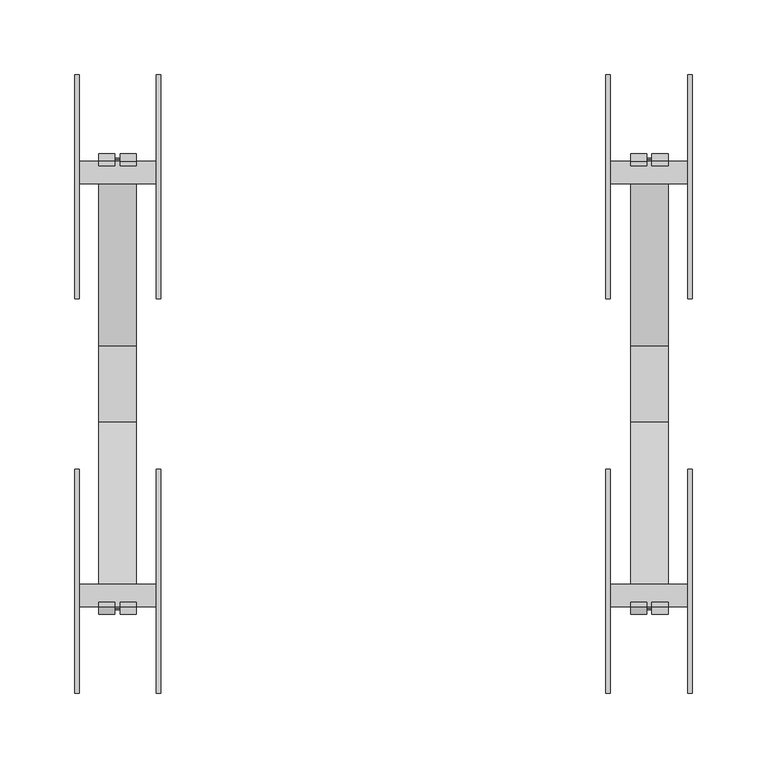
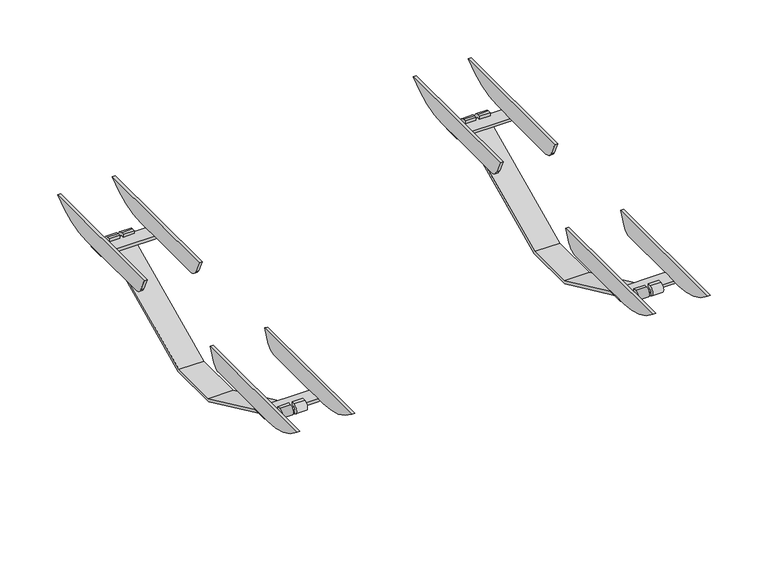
"""IFC4 building model written with IfcOpenShell, lengths in millimetres: light fixture geometry, Zumtobel CRAFT II Plus : CR2PL M17k-840 PC WB LDO WH."""

from ifc_helpers import new_model, si_unit, frame, origin, place, context, project, spatial, polyline, circle_curve, source, transform, mapped, element, save
from ifc_brep_helpers import plane_surface, cylinder_surface, revolved_surface, advanced_brep


def light_fixture_6372cc0d(model_context):
    return source(origin(), model_context, "Body", "AdvancedBrep", [
        advanced_brep(
        [(565.0000048, -25.5853709, -105.279648), (565.0000048, 25.5853709, -105.279648), (565.0000048, 149.9566294, -47.2843777), (565.0000048, 149.1245604, -43.5311571), (565.0000048, 146.1174999, -43.5311571), (565.0000048, 146.1174999, -40.5079957), (565.0000048, 149.1198158, -40.5079957), (565.0000048, 151.2244841, -50.003301), (565.0000048, 26.2504549, -108.279648), (565.0000048, -26.2504549, -108.279648), (565.0000048, -151.2244841, -50.003301), (565.0000048, -149.1245604, -40.5311571), (565.0000048, -146.1174999, -40.5079957), (565.0000048, -146.1174999, -43.5311571), (565.0000048, -149.1245604, -43.5311571), (565.0000048, -149.9566294, -47.2843777), (575.7941225, -149.9566294, -47.2843777), (575.7941225, -149.1245604, -43.5311571), (575.7941225, -146.1174999, -43.5311571), (575.7941225, -146.1174999, -40.5079957), (575.7941225, -149.1198158, -40.5079957), (575.7941225, -151.2244841, -50.003301), (575.7941225, 151.2244841, -50.003301), (575.7941225, 149.1245604, -40.5311571), (575.7941225, 146.1174999, -40.5079957), (575.7941225, 146.1174999, -43.5311571), (575.7941225, 149.1245604, -43.5311571), (575.7941225, 149.9566294, -47.2843777), (579.2058872, -149.9566294, -47.2843777), (590.0000048, -149.9566294, -47.2843777), (590.0000048, -25.5853709, -105.279648), (590.0000048, -26.2504549, -108.279648), (590.0000048, -151.2244841, -50.003301), (579.2058872, -151.2244841, -50.003301), (590.0000048, 26.2504549, -108.279648), (579.2058872, 151.2244841, -50.003301), (590.0000048, 151.2244841, -50.003301), (590.0000048, 25.5853709, -105.279648), (590.0000048, 149.9566294, -47.2843777), (579.2058872, 149.9566294, -47.2843777), (590.0000048, -149.1245604, -43.5311571), (590.0000048, -146.1174999, -43.5311571), (590.0000048, -146.1174999, -40.5079957), (590.0000048, -149.1198158, -40.5079957), (590.0000048, 149.1245604, -40.5311571), (590.0000048, 146.1174999, -40.5079957), (590.0000048, 146.1174999, -43.5311571), (590.0000048, 149.1245604, -43.5311571), (579.2058872, 149.1245604, -43.5311571), (579.2058872, 146.1174999, -43.5311571), (579.2058872, 146.1174999, -40.5079957), (579.2058872, 149.1198158, -40.5079957), (579.2058872, -149.1245604, -40.5311571), (579.2058872, -146.1174999, -40.5079957), (579.2058872, -146.1174999, -43.5311571), (579.2058872, -149.1245604, -43.5311571)],
        [
            (0, 1),
            (1, 2),
            (2, 3, circle_curve(frame((565.0000048, 149.1245604, -45.5), z_axis=(1.0, 0.0, 0.0), x_axis=(0.0, -1.0, 0.0)), 1.9688429)),
            (3, 4),
            (4, 5),
            (5, 6),
            (6, 7, circle_curve(frame((565.0000048, 149.1245604, -45.5), z_axis=(-1.0, 0.0, 0.0), x_axis=(0.0, -1.0, 0.0)), 4.9688429)),
            (7, 8),
            (8, 9),
            (9, 10),
            (10, 11, circle_curve(frame((565.0000048, -149.1245604, -45.5), z_axis=(-1.0, 0.0, 0.0), x_axis=(0.0, 1.0, 0.0)), 4.9688429)),
            (11, 12),
            (12, 13),
            (13, 14),
            (14, 15, circle_curve(frame((565.0000048, -149.1245604, -45.5), z_axis=(1.0, 0.0, 0.0), x_axis=(0.0, 1.0, 0.0)), 1.9688429)),
            (15, 0),
            (16, 17, circle_curve(frame((575.7941225, -149.1245604, -45.5), z_axis=(-1.0, 0.0, 0.0), x_axis=(0.0, 1.0, 0.0)), 1.9688429)),
            (17, 18),
            (18, 19),
            (19, 20),
            (20, 21, circle_curve(frame((575.7941225, -149.1245604, -45.5), z_axis=(1.0, 0.0, 0.0), x_axis=(0.0, 1.0, 0.0)), 4.9688429)),
            (21, 16),
            (22, 23, circle_curve(frame((575.7941225, 149.1245604, -45.5), z_axis=(1.0, 0.0, 0.0), x_axis=(0.0, -1.0, 0.0)), 4.9688429)),
            (23, 24),
            (24, 25),
            (25, 26),
            (26, 27, circle_curve(frame((575.7941225, 149.1245604, -45.5), z_axis=(-1.0, 0.0, 0.0), x_axis=(0.0, -1.0, 0.0)), 1.9688429)),
            (27, 22),
            (15, 16),
            (16, 28),
            (28, 29),
            (29, 30),
            (30, 0),
            (9, 31),
            (31, 32),
            (32, 33),
            (33, 21),
            (21, 10),
            (8, 34),
            (34, 31),
            (7, 22),
            (22, 35),
            (35, 36),
            (36, 34),
            (1, 37),
            (37, 38),
            (38, 39),
            (39, 27),
            (27, 2),
            (30, 37),
            (14, 17),
            (13, 18),
            (12, 19),
            (11, 20),
            (6, 23),
            (5, 24),
            (4, 25),
            (3, 26),
            (39, 35),
            (33, 28),
            (29, 40, circle_curve(frame((590.0000048, -149.1245604, -45.5), z_axis=(-1.0, 0.0, 0.0), x_axis=(0.0, 1.0, 0.0)), 1.9688429)),
            (40, 41),
            (41, 42),
            (42, 43),
            (43, 32, circle_curve(frame((590.0000048, -149.1245604, -45.5), z_axis=(1.0, 0.0, 0.0), x_axis=(0.0, 1.0, 0.0)), 4.9688429)),
            (36, 44, circle_curve(frame((590.0000048, 149.1245604, -45.5), z_axis=(1.0, 0.0, 0.0), x_axis=(0.0, -1.0, 0.0)), 4.9688429)),
            (44, 45),
            (45, 46),
            (46, 47),
            (47, 38, circle_curve(frame((590.0000048, 149.1245604, -45.5), z_axis=(-1.0, 0.0, 0.0), x_axis=(0.0, -1.0, 0.0)), 1.9688429)),
            (39, 48, circle_curve(frame((579.2058872, 149.1245604, -45.5), z_axis=(1.0, 0.0, 0.0), x_axis=(0.0, -1.0, 0.0)), 1.9688429)),
            (48, 49),
            (49, 50),
            (50, 51),
            (51, 35, circle_curve(frame((579.2058872, 149.1245604, -45.5), z_axis=(-1.0, 0.0, 0.0), x_axis=(0.0, -1.0, 0.0)), 4.9688429)),
            (33, 52, circle_curve(frame((579.2058872, -149.1245604, -45.5), z_axis=(-1.0, 0.0, 0.0), x_axis=(0.0, 1.0, 0.0)), 4.9688429)),
            (52, 53),
            (53, 54),
            (54, 55),
            (55, 28, circle_curve(frame((579.2058872, -149.1245604, -45.5), z_axis=(1.0, 0.0, 0.0), x_axis=(0.0, 1.0, 0.0)), 1.9688429)),
            (55, 40),
            (54, 41),
            (53, 42),
            (52, 43),
            (47, 48),
            (46, 49),
            (45, 50),
            (44, 51),
        ],
        [
            plane_surface(frame((565.0000048, -25.5853709, -105.279648), z_axis=(-1.0, 0.0, 0.0), x_axis=(0.0, 1.0, 0.0))),
            plane_surface(frame((575.7941225, -25.5853709, -105.279648), z_axis=(1.0, 0.0, 0.0), x_axis=(0.0, -1.0, 0.0))),
            plane_surface(frame((565.0000048, -149.9566294, -47.2843777), z_axis=(0.0, 0.4226182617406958, 0.9063077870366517), x_axis=(1.0, 0.0, 0.0))),
            plane_surface(frame((565.0000048, -26.2504549, -108.279648), z_axis=(0.0, -0.4226182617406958, -0.9063077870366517), x_axis=(1.0, 0.0, 0.0))),
            plane_surface(frame((565.0000048, 26.2504549, -108.279648), z_axis=(0.0, 0.0, -1.0), x_axis=(1.0, 0.0, 0.0))),
            plane_surface(frame((565.0000048, 151.2244841, -50.003301), z_axis=(0.0, 0.42261826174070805, -0.9063077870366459), x_axis=(1.0, 0.0, 0.0))),
            plane_surface(frame((565.0000048, 25.5853709, -105.279648), z_axis=(0.0, -0.42261826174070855, 0.9063077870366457), x_axis=(1.0, 0.0, 0.0))),
            plane_surface(frame((565.0000048, -25.5853709, -105.279648), z_axis=(0.0, 0.0, 1.0), x_axis=(1.0, 0.0, 0.0))),
            revolved_surface(polyline([(575.7941225, -147.1557175, -45.5), (565.0000048, -147.1557175, -45.5)]), (575.7941225, -149.1245604, -45.5), (1.0, 0.0, 0.0)),
            plane_surface(frame((565.0000048, -146.1174999, -43.5311571), z_axis=(0.0, 0.0, -1.0), x_axis=(1.0, 0.0, 0.0))),
            plane_surface(frame((565.0000048, -146.1174999, -40.5079957), z_axis=(0.0, 1.0, 0.0), x_axis=(1.0, 0.0, 0.0))),
            plane_surface(frame((565.0000048, -149.1198158, -40.5079957), z_axis=(0.0, 0.0, 1.0), x_axis=(1.0, 0.0, 0.0))),
            cylinder_surface(frame((575.7941225, -149.1245604, -45.5), z_axis=(-1.0, 0.0, 0.0), x_axis=(0.0, 1.0, 0.0)), 4.9688429),
            cylinder_surface(frame((575.7941225, 149.1245604, -45.5), z_axis=(-1.0, 0.0, 0.0), x_axis=(0.0, -1.0, 0.0)), 4.9688429),
            plane_surface(frame((565.0000048, 146.1174999, -40.5079957), z_axis=(0.0, 0.0, 1.0), x_axis=(1.0, 0.0, 0.0))),
            plane_surface(frame((565.0000048, 146.1174999, -43.5311571), z_axis=(0.0, -1.0, 0.0), x_axis=(1.0, 0.0, 0.0))),
            plane_surface(frame((565.0000048, 149.1245604, -43.5311571), z_axis=(0.0, 0.0, -1.0), x_axis=(1.0, 0.0, 0.0))),
            revolved_surface(polyline([(575.7941225, 147.1557175, -45.5), (565.0000048, 147.1557175, -45.5)]), (575.7941225, 149.1245604, -45.5), (1.0, 0.0, 0.0)),
            plane_surface(frame((575.7941225, 149.9566294, -47.2843777), z_axis=(0.0, 0.9063077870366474, 0.42261826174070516), x_axis=(1.0, 0.0, 0.0))),
            plane_surface(frame((575.7941225, -151.2244841, -50.003301), z_axis=(0.0, -0.9063077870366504, 0.4226182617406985), x_axis=(1.0, 0.0, 0.0))),
            plane_surface(frame((590.0000048, -157.0, -44.0), z_axis=(1.0, 0.0, 0.0), x_axis=(0.0, -0.9063077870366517, 0.4226182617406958))),
            plane_surface(frame((579.2058872, -157.0, -44.0), z_axis=(-1.0, 0.0, 0.0), x_axis=(0.0, 0.9063077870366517, -0.4226182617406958))),
            revolved_surface(polyline([(579.2058872, -147.1557175, -45.5), (590.0000048, -147.1557175, -45.5)]), (579.2058872, -149.1245604, -45.5), (-1.0, 0.0, 0.0)),
            plane_surface(frame((590.0000048, -149.1245604, -43.5311571), z_axis=(0.0, 0.0, -1.0), x_axis=(-1.0, 0.0, 0.0))),
            plane_surface(frame((590.0000048, -146.1174999, -43.5311571), z_axis=(0.0, 1.0, 0.0), x_axis=(-1.0, 0.0, 0.0))),
            plane_surface(frame((590.0000048, -146.1174999, -40.5079957), z_axis=(0.0, 0.0, 1.0), x_axis=(-1.0, 0.0, 0.0))),
            cylinder_surface(frame((579.2058872, -149.1245604, -45.5), z_axis=(1.0, 0.0, 0.0), x_axis=(0.0, 1.0, 0.0)), 4.9688429),
            revolved_surface(polyline([(579.2058872, 147.1557175, -45.5), (590.0000048, 147.1557175, -45.5)]), (579.2058872, 149.1245604, -45.5), (-1.0, 0.0, 0.0)),
            plane_surface(frame((590.0000048, 146.1174999, -43.5311571), z_axis=(0.0, 0.0, -1.0), x_axis=(-1.0, 0.0, 0.0))),
            plane_surface(frame((590.0000048, 146.1174999, -40.5079957), z_axis=(0.0, -1.0, 0.0), x_axis=(-1.0, 0.0, 0.0))),
            plane_surface(frame((590.0000048, 149.1198158, -40.5079957), z_axis=(0.0, 0.0, 1.0), x_axis=(-1.0, 0.0, 0.0))),
            cylinder_surface(frame((579.2058872, 149.1245604, -45.5), z_axis=(1.0, 0.0, 0.0), x_axis=(0.0, -1.0, 0.0)), 4.9688429),
        ],
        [
            (0, [[1, 2, 3, 4, 5, 6, 7, 8, 9, 10, 11, 12, 13, 14, 15, 16]]),
            (1, [[17, 18, 19, 20, 21, 22]]),
            (1, [[23, 24, 25, 26, 27, 28]]),
            (2, [[-16, 29, 30, 31, 32, 33]]),
            (3, [[-10, 34, 35, 36, 37, 38]]),
            (4, [[-34, -9, 39, 40]]),
            (5, [[-39, -8, 41, 42, 43, 44]]),
            (6, [[-2, 45, 46, 47, 48, 49]]),
            (7, [[-45, -1, -33, 50]]),
            (8, [[-15, 51, -17, -29]]),
            (9, [[-14, 52, -18, -51]]),
            (10, [[-13, 53, -19, -52]]),
            (11, [[-12, 54, -20, -53]]),
            (12, [[-11, -38, -21, -54]]),
            (13, [[-7, 55, -23, -41]]),
            (14, [[-6, 56, -24, -55]]),
            (15, [[-5, 57, -25, -56]]),
            (16, [[-4, 58, -26, -57]]),
            (17, [[-3, -49, -27, -58]]),
            (18, [[-42, -28, -48, 59]]),
            (19, [[-30, -22, -37, 60]]),
            (20, [[-32, 61, 62, 63, 64, 65, -35, -40, -44, 66, 67, 68, 69, 70, -46, -50]]),
            (21, [[71, 72, 73, 74, 75, -59]]),
            (21, [[76, 77, 78, 79, 80, -60]]),
            (22, [[-61, -31, -80, 81]]),
            (23, [[-62, -81, -79, 82]]),
            (24, [[-63, -82, -78, 83]]),
            (25, [[-64, -83, -77, 84]]),
            (26, [[-65, -84, -76, -36]]),
            (27, [[-70, 85, -71, -47]]),
            (28, [[-69, 86, -72, -85]]),
            (29, [[-68, 87, -73, -86]]),
            (30, [[-67, 88, -74, -87]]),
            (31, [[-66, -43, -75, -88]]),
        ],
    ),
        advanced_brep(
        [(234.0000048, -25.5853709, -105.279648), (234.0000048, -149.9566294, -47.2843777), (234.0000048, -149.1245604, -43.5311571), (234.0000048, -146.1174999, -43.5311571), (234.0000048, -146.1174999, -40.5079957), (234.0000048, -149.1198158, -40.5079957), (234.0000048, -151.2244841, -50.003301), (234.0000048, -26.2504549, -108.279648), (234.0000048, 26.2504549, -108.279648), (234.0000048, 151.2244841, -50.003301), (234.0000048, 149.1245604, -40.5311571), (234.0000048, 146.1174999, -40.5079957), (234.0000048, 146.1174999, -43.5311571), (234.0000048, 149.1245604, -43.5311571), (234.0000048, 149.9566294, -47.2843777), (234.0000048, 25.5853709, -105.279648), (223.2058872, -151.2244841, -50.003301), (223.2058872, -149.1245604, -40.5311571), (223.2058872, -146.1174999, -40.5079957), (223.2058872, -146.1174999, -43.5311571), (223.2058872, -149.1245604, -43.5311571), (223.2058872, -149.9566294, -47.2843777), (223.2058872, 149.9566294, -47.2843777), (223.2058872, 149.1245604, -43.5311571), (223.2058872, 146.1174999, -43.5311571), (223.2058872, 146.1174999, -40.5079957), (223.2058872, 149.1198158, -40.5079957), (223.2058872, 151.2244841, -50.003301), (209.0000048, -25.5853709, -105.279648), (209.0000048, -149.9566294, -47.2843777), (219.7941225, -149.9566294, -47.2843777), (219.7941225, -151.2244841, -50.003301), (209.0000048, -151.2244841, -50.003301), (209.0000048, -26.2504549, -108.279648), (209.0000048, 26.2504549, -108.279648), (209.0000048, 151.2244841, -50.003301), (219.7941225, 151.2244841, -50.003301), (219.7941225, 149.9566294, -47.2843777), (209.0000048, 149.9566294, -47.2843777), (209.0000048, 25.5853709, -105.279648), (209.0000048, 149.1245604, -43.5311571), (209.0000048, 146.1174999, -43.5311571), (209.0000048, 146.1174999, -40.5079957), (209.0000048, 149.1198158, -40.5079957), (209.0000048, -149.1245604, -40.5311571), (209.0000048, -146.1174999, -40.5079957), (209.0000048, -146.1174999, -43.5311571), (209.0000048, -149.1245604, -43.5311571), (219.7941225, -149.1245604, -43.5311571), (219.7941225, -146.1174999, -43.5311571), (219.7941225, -146.1174999, -40.5079957), (219.7941225, -149.1198158, -40.5079957), (219.7941225, 149.1245604, -40.5311571), (219.7941225, 146.1174999, -40.5079957), (219.7941225, 146.1174999, -43.5311571), (219.7941225, 149.1245604, -43.5311571)],
        [
            (0, 1),
            (1, 2, circle_curve(frame((234.0000048, -149.1245604, -45.5), z_axis=(-1.0, 0.0, 0.0), x_axis=(0.0, 1.0, 0.0)), 1.9688429)),
            (2, 3),
            (3, 4),
            (4, 5),
            (5, 6, circle_curve(frame((234.0000048, -149.1245604, -45.5), z_axis=(1.0, 0.0, 0.0), x_axis=(0.0, 1.0, 0.0)), 4.9688429)),
            (6, 7),
            (7, 8),
            (8, 9),
            (9, 10, circle_curve(frame((234.0000048, 149.1245604, -45.5), z_axis=(1.0, 0.0, 0.0), x_axis=(0.0, -1.0, 0.0)), 4.9688429)),
            (10, 11),
            (11, 12),
            (12, 13),
            (13, 14, circle_curve(frame((234.0000048, 149.1245604, -45.5), z_axis=(-1.0, 0.0, 0.0), x_axis=(0.0, -1.0, 0.0)), 1.9688429)),
            (14, 15),
            (15, 0),
            (16, 17, circle_curve(frame((223.2058872, -149.1245604, -45.5), z_axis=(-1.0, 0.0, 0.0), x_axis=(0.0, 1.0, 0.0)), 4.9688429)),
            (17, 18),
            (18, 19),
            (19, 20),
            (20, 21, circle_curve(frame((223.2058872, -149.1245604, -45.5), z_axis=(1.0, 0.0, 0.0), x_axis=(0.0, 1.0, 0.0)), 1.9688429)),
            (21, 16),
            (22, 23, circle_curve(frame((223.2058872, 149.1245604, -45.5), z_axis=(1.0, 0.0, 0.0), x_axis=(0.0, -1.0, 0.0)), 1.9688429)),
            (23, 24),
            (24, 25),
            (25, 26),
            (26, 27, circle_curve(frame((223.2058872, 149.1245604, -45.5), z_axis=(-1.0, 0.0, 0.0), x_axis=(0.0, -1.0, 0.0)), 4.9688429)),
            (27, 22),
            (0, 28),
            (28, 29),
            (29, 30),
            (30, 21),
            (21, 1),
            (6, 16),
            (16, 31),
            (31, 32),
            (32, 33),
            (33, 7),
            (33, 34),
            (34, 8),
            (34, 35),
            (35, 36),
            (36, 27),
            (27, 9),
            (14, 22),
            (22, 37),
            (37, 38),
            (38, 39),
            (39, 15),
            (39, 28),
            (20, 2),
            (19, 3),
            (18, 4),
            (17, 5),
            (30, 31),
            (38, 40, circle_curve(frame((209.0000048, 149.1245604, -45.5), z_axis=(1.0, 0.0, 0.0), x_axis=(0.0, -1.0, 0.0)), 1.9688429)),
            (40, 41),
            (41, 42),
            (42, 43),
            (43, 35, circle_curve(frame((209.0000048, 149.1245604, -45.5), z_axis=(-1.0, 0.0, 0.0), x_axis=(0.0, -1.0, 0.0)), 4.9688429)),
            (32, 44, circle_curve(frame((209.0000048, -149.1245604, -45.5), z_axis=(-1.0, 0.0, 0.0), x_axis=(0.0, 1.0, 0.0)), 4.9688429)),
            (44, 45),
            (45, 46),
            (46, 47),
            (47, 29, circle_curve(frame((209.0000048, -149.1245604, -45.5), z_axis=(1.0, 0.0, 0.0), x_axis=(0.0, 1.0, 0.0)), 1.9688429)),
            (30, 48, circle_curve(frame((219.7941225, -149.1245604, -45.5), z_axis=(-1.0, 0.0, 0.0), x_axis=(0.0, 1.0, 0.0)), 1.9688429)),
            (48, 49),
            (49, 50),
            (50, 51),
            (51, 31, circle_curve(frame((219.7941225, -149.1245604, -45.5), z_axis=(1.0, 0.0, 0.0), x_axis=(0.0, 1.0, 0.0)), 4.9688429)),
            (36, 52, circle_curve(frame((219.7941225, 149.1245604, -45.5), z_axis=(1.0, 0.0, 0.0), x_axis=(0.0, -1.0, 0.0)), 4.9688429)),
            (52, 53),
            (53, 54),
            (54, 55),
            (55, 37, circle_curve(frame((219.7941225, 149.1245604, -45.5), z_axis=(-1.0, 0.0, 0.0), x_axis=(0.0, -1.0, 0.0)), 1.9688429)),
            (37, 36),
            (47, 48),
            (46, 49),
            (45, 50),
            (44, 51),
            (55, 40),
            (54, 41),
            (53, 42),
            (52, 43),
            (26, 10),
            (25, 11),
            (24, 12),
            (23, 13),
        ],
        [
            plane_surface(frame((234.0000048, -157.0, -44.0), z_axis=(1.0, 0.0, 0.0), x_axis=(0.0, -0.9063077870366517, 0.4226182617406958))),
            plane_surface(frame((223.2058872, -157.0, -44.0), z_axis=(-1.0, 0.0, 0.0), x_axis=(0.0, 0.9063077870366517, -0.4226182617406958))),
            plane_surface(frame((234.0000048, -25.5853709, -105.279648), z_axis=(0.0, 0.4226182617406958, 0.9063077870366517), x_axis=(-1.0, 0.0, 0.0))),
            plane_surface(frame((234.0000048, -151.2244841, -50.003301), z_axis=(0.0, -0.42261826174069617, -0.9063077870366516), x_axis=(-1.0, 0.0, 0.0))),
            plane_surface(frame((234.0000048, -26.2504549, -108.279648), z_axis=(0.0, 0.0, -1.0), x_axis=(-1.0, 0.0, 0.0))),
            plane_surface(frame((234.0000048, 26.2504549, -108.279648), z_axis=(0.0, 0.42261826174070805, -0.9063077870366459), x_axis=(-1.0, 0.0, 0.0))),
            plane_surface(frame((234.0000048, 149.9566294, -47.2843777), z_axis=(0.0, -0.422618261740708, 0.906307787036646), x_axis=(-1.0, 0.0, 0.0))),
            plane_surface(frame((234.0000048, 25.5853709, -105.279648), z_axis=(0.0, 0.0, 1.0), x_axis=(-1.0, 0.0, 0.0))),
            revolved_surface(polyline([(223.2058872, -147.1557175, -45.5), (234.0000048, -147.1557175, -45.5)]), (223.2058872, -149.1245604, -45.5), (-1.0, 0.0, 0.0)),
            plane_surface(frame((234.0000048, -149.1245604, -43.5311571), z_axis=(0.0, 0.0, -1.0), x_axis=(-1.0, 0.0, 0.0))),
            plane_surface(frame((234.0000048, -146.1174999, -43.5311571), z_axis=(0.0, 1.0, 0.0), x_axis=(-1.0, 0.0, 0.0))),
            plane_surface(frame((234.0000048, -146.1174999, -40.5079957), z_axis=(0.0, 0.0, 1.0), x_axis=(-1.0, 0.0, 0.0))),
            cylinder_surface(frame((223.2058872, -149.1245604, -45.5), z_axis=(1.0, 0.0, 0.0), x_axis=(0.0, 1.0, 0.0)), 4.9688429),
            plane_surface(frame((223.2058872, -149.9566294, -47.2843777), z_axis=(0.0, -0.9063077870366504, 0.4226182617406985), x_axis=(-1.0, 0.0, 0.0))),
            plane_surface(frame((209.0000048, -25.5853709, -105.279648), z_axis=(-1.0, 0.0, 0.0), x_axis=(0.0, 1.0, 0.0))),
            plane_surface(frame((219.7941225, -25.5853709, -105.279648), z_axis=(1.0, 0.0, 0.0), x_axis=(0.0, -1.0, 0.0))),
            revolved_surface(polyline([(219.7941225, -147.1557175, -45.5), (209.0000048, -147.1557175, -45.5)]), (219.7941225, -149.1245604, -45.5), (1.0, 0.0, 0.0)),
            plane_surface(frame((209.0000048, -146.1174999, -43.5311571), z_axis=(0.0, 0.0, -1.0), x_axis=(1.0, 0.0, 0.0))),
            plane_surface(frame((209.0000048, -146.1174999, -40.5079957), z_axis=(0.0, 1.0, 0.0), x_axis=(1.0, 0.0, 0.0))),
            plane_surface(frame((209.0000048, -149.1198158, -40.5079957), z_axis=(0.0, 0.0, 1.0), x_axis=(1.0, 0.0, 0.0))),
            cylinder_surface(frame((219.7941225, -149.1245604, -45.5), z_axis=(-1.0, 0.0, 0.0), x_axis=(0.0, 1.0, 0.0)), 4.9688429),
            revolved_surface(polyline([(219.7941225, 147.1557175, -45.5), (209.0000048, 147.1557175, -45.5)]), (219.7941225, 149.1245604, -45.5), (1.0, 0.0, 0.0)),
            plane_surface(frame((209.0000048, 149.1245604, -43.5311571), z_axis=(0.0, 0.0, -1.0), x_axis=(1.0, 0.0, 0.0))),
            plane_surface(frame((209.0000048, 146.1174999, -43.5311571), z_axis=(0.0, -1.0, 0.0), x_axis=(1.0, 0.0, 0.0))),
            plane_surface(frame((209.0000048, 146.1174999, -40.5079957), z_axis=(0.0, 0.0, 1.0), x_axis=(1.0, 0.0, 0.0))),
            cylinder_surface(frame((219.7941225, 149.1245604, -45.5), z_axis=(-1.0, 0.0, 0.0), x_axis=(0.0, -1.0, 0.0)), 4.9688429),
            cylinder_surface(frame((223.2058872, 149.1245604, -45.5), z_axis=(1.0, 0.0, 0.0), x_axis=(0.0, -1.0, 0.0)), 4.9688429),
            plane_surface(frame((234.0000048, 149.1198158, -40.5079957), z_axis=(0.0, 0.0, 1.0), x_axis=(-1.0, 0.0, 0.0))),
            plane_surface(frame((234.0000048, 146.1174999, -40.5079957), z_axis=(0.0, -1.0, 0.0), x_axis=(-1.0, 0.0, 0.0))),
            plane_surface(frame((234.0000048, 146.1174999, -43.5311571), z_axis=(0.0, 0.0, -1.0), x_axis=(-1.0, 0.0, 0.0))),
            revolved_surface(polyline([(223.2058872, 147.1557175, -45.5), (234.0000048, 147.1557175, -45.5)]), (223.2058872, 149.1245604, -45.5), (-1.0, 0.0, 0.0)),
            plane_surface(frame((223.2058872, 151.2244841, -50.003301), z_axis=(0.0, 0.9063077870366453, 0.42261826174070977), x_axis=(-1.0, 0.0, 0.0))),
        ],
        [
            (0, [[1, 2, 3, 4, 5, 6, 7, 8, 9, 10, 11, 12, 13, 14, 15, 16]]),
            (1, [[17, 18, 19, 20, 21, 22]]),
            (1, [[23, 24, 25, 26, 27, 28]]),
            (2, [[-1, 29, 30, 31, 32, 33]]),
            (3, [[-7, 34, 35, 36, 37, 38]]),
            (4, [[-8, -38, 39, 40]]),
            (5, [[-9, -40, 41, 42, 43, 44]]),
            (6, [[-15, 45, 46, 47, 48, 49]]),
            (7, [[-29, -16, -49, 50]]),
            (8, [[-2, -33, -21, 51]]),
            (9, [[-3, -51, -20, 52]]),
            (10, [[-4, -52, -19, 53]]),
            (11, [[-5, -53, -18, 54]]),
            (12, [[-6, -54, -17, -34]]),
            (13, [[-32, 55, -35, -22]]),
            (14, [[-50, -48, 56, 57, 58, 59, 60, -41, -39, -37, 61, 62, 63, 64, 65, -30]]),
            (15, [[66, 67, 68, 69, 70, -55]]),
            (15, [[71, 72, 73, 74, 75, 76]]),
            (16, [[-65, 77, -66, -31]]),
            (17, [[-64, 78, -67, -77]]),
            (18, [[-63, 79, -68, -78]]),
            (19, [[-62, 80, -69, -79]]),
            (20, [[-61, -36, -70, -80]]),
            (21, [[-56, -47, -75, 81]]),
            (22, [[-57, -81, -74, 82]]),
            (23, [[-58, -82, -73, 83]]),
            (24, [[-59, -83, -72, 84]]),
            (25, [[-60, -84, -71, -42]]),
            (26, [[-10, -44, -27, 85]]),
            (27, [[-11, -85, -26, 86]]),
            (28, [[-12, -86, -25, 87]]),
            (29, [[-13, -87, -24, 88]]),
            (30, [[-14, -88, -23, -45]]),
            (31, [[-43, -76, -46, -28]]),
        ],
    ),
        advanced_brep(
        [(195.852946, -57.0, -25.0), (195.852946, -207.0, -25.0), (195.852946, -157.0, -44.0), (195.852946, -149.1245604, -44.0), (195.852946, -134.1245604, -44.0), (195.852946, -72.2305481, -44.0), (195.852946, -63.1674702, -38.2261826), (192.852946, -57.0, -25.0), (192.852946, -63.1674702, -38.2261826), (192.852946, -72.2305481, -44.0), (192.852946, -134.1245604, -44.0), (192.852946, -149.1245604, -44.0), (192.852946, -157.0, -44.0), (192.852946, -207.0, -25.0), (250.5588283, -134.1245604, -44.0), (247.5588283, -134.1245604, -47.0), (195.852946, -134.1245604, -47.0), (247.5588283, -134.1245604, -44.0), (195.852946, -149.1245604, -47.0), (247.5588283, -149.1245604, -47.0), (250.5588283, -149.1245604, -44.0), (247.5588283, -149.1245604, -44.0), (250.5588283, -57.0, -25.0), (250.5588283, -207.0, -25.0), (250.5588283, -157.0, -44.0), (250.5588283, -72.2305481, -44.0), (250.5588283, -63.1674702, -38.2261826), (247.5588283, -57.0, -25.0), (247.5588283, -63.1674702, -38.2261826), (247.5588283, -72.2305481, -44.0), (247.5588283, -157.0, -44.0), (247.5588283, -207.0, -25.0)],
        [
            (0, 1),
            (1, 2, circle_curve(frame((195.852946, -157.0, 31.2894737), z_axis=(1.0, 0.0, 0.0), x_axis=(0.0, 1.0, 0.0)), 75.2894737)),
            (2, 3),
            (3, 4),
            (4, 5),
            (5, 6, circle_curve(frame((195.852946, -72.2305481, -34.0), z_axis=(1.0, 0.0, 0.0), x_axis=(0.0, -1.0, 0.0)), 10.0)),
            (6, 0),
            (7, 8),
            (8, 9, circle_curve(frame((192.852946, -72.2305481, -34.0), z_axis=(-1.0, 0.0, 0.0), x_axis=(0.0, -1.0, 0.0)), 10.0)),
            (9, 10),
            (10, 11),
            (11, 12),
            (12, 13, circle_curve(frame((192.852946, -157.0, 31.2894737), z_axis=(-1.0, 0.0, 0.0), x_axis=(0.0, 1.0, 0.0)), 75.2894737)),
            (13, 7),
            (14, 15, circle_curve(frame((247.5588283, -134.1245604, -44.0), z_axis=(0.0, 1.0, 0.0), x_axis=(0.0, 0.0, 1.0)), 3.0)),
            (15, 16),
            (16, 10, circle_curve(frame((195.852946, -134.1245604, -44.0), z_axis=(0.0, 1.0, 0.0), x_axis=(0.0, 0.0, 1.0)), 3.0)),
            (10, 4),
            (4, 17),
            (17, 14),
            (11, 18, circle_curve(frame((195.852946, -149.1245604, -44.0), z_axis=(0.0, -1.0, 0.0), x_axis=(0.0, 0.0, 1.0)), 3.0)),
            (18, 19),
            (19, 20, circle_curve(frame((247.5588283, -149.1245604, -44.0), z_axis=(0.0, -1.0, 0.0), x_axis=(0.0, 0.0, 1.0)), 3.0)),
            (20, 21),
            (21, 3),
            (3, 11),
            (16, 18),
            (15, 19),
            (14, 20),
            (21, 17),
            (22, 23),
            (23, 24, circle_curve(frame((250.5588283, -157.0, 31.2894737), z_axis=(1.0, 0.0, 0.0), x_axis=(0.0, 1.0, 0.0)), 75.2894737)),
            (24, 20),
            (14, 25),
            (25, 26, circle_curve(frame((250.5588283, -72.2305481, -34.0), z_axis=(1.0, 0.0, 0.0), x_axis=(0.0, -1.0, 0.0)), 10.0)),
            (26, 22),
            (27, 28),
            (28, 29, circle_curve(frame((247.5588283, -72.2305481, -34.0), z_axis=(-1.0, 0.0, 0.0), x_axis=(0.0, -1.0, 0.0)), 10.0)),
            (29, 17),
            (21, 30),
            (30, 31, circle_curve(frame((247.5588283, -157.0, 31.2894737), z_axis=(-1.0, 0.0, 0.0), x_axis=(0.0, 1.0, 0.0)), 75.2894737)),
            (31, 27),
            (22, 27),
            (31, 23),
            (30, 24),
            (29, 25),
            (28, 26),
            (0, 7),
            (13, 1),
            (12, 2),
            (9, 5),
            (8, 6),
        ],
        [
            plane_surface(frame((195.852946, -207.0, -25.0), z_axis=(1.0, 0.0, 0.0), x_axis=(0.0, -1.0, 0.0))),
            plane_surface(frame((192.852946, -207.0, -25.0), z_axis=(-1.0, 0.0, 0.0), x_axis=(0.0, 1.0, 0.0))),
            plane_surface(frame((195.852946, -134.1245604, -41.0), z_axis=(0.0, 1.0, 0.0), x_axis=(1.0, 0.0, 0.0))),
            plane_surface(frame((195.852946, -149.1245604, -41.0), z_axis=(0.0, -1.0, 0.0), x_axis=(-1.0, 0.0, 0.0))),
            cylinder_surface(frame((195.852946, -134.1245604, -44.0), z_axis=(0.0, -1.0, 0.0), x_axis=(0.0, 0.0, 1.0)), 3.0),
            plane_surface(frame((195.852946, -149.1245604, -47.0), z_axis=(0.0, 0.0, -1.0), x_axis=(0.0, 1.0, 0.0))),
            cylinder_surface(frame((247.5588283, -134.1245604, -44.0), z_axis=(0.0, -1.0, 0.0), x_axis=(0.0, 0.0, 1.0)), 3.0),
            plane_surface(frame((250.5588283, -149.1245604, -44.0), z_axis=(0.0, 0.0, 1.0), x_axis=(0.0, 1.0, 0.0))),
            plane_surface(frame((250.5588283, -207.0, -25.0), z_axis=(1.0, 0.0, 0.0), x_axis=(0.0, -1.0, 0.0))),
            plane_surface(frame((247.5588283, -207.0, -25.0), z_axis=(-1.0, 0.0, 0.0), x_axis=(0.0, 1.0, 0.0))),
            plane_surface(frame((250.5588283, -57.0, -25.0), z_axis=(0.0, 0.0, 1.0), x_axis=(-1.0, 0.0, 0.0))),
            cylinder_surface(frame((247.5588283, -157.0, 31.2894737), z_axis=(1.0, 0.0, 0.0), x_axis=(0.0, 1.0, 0.0)), 75.2894737),
            plane_surface(frame((250.5588283, -157.0, -44.0), z_axis=(0.0, 0.0, -1.0), x_axis=(-1.0, 0.0, 0.0))),
            cylinder_surface(frame((247.5588283, -72.2305481, -34.0), z_axis=(1.0, 0.0, 0.0), x_axis=(0.0, -1.0, 0.0)), 10.0),
            plane_surface(frame((250.5588283, -63.1674702, -38.2261826), z_axis=(0.0, 0.9063077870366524, -0.4226182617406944), x_axis=(-1.0, 0.0, 0.0))),
            plane_surface(frame((195.852946, -57.0, -25.0), z_axis=(0.0, 0.0, 1.0), x_axis=(-1.0, 0.0, 0.0))),
            cylinder_surface(frame((192.852946, -157.0, 31.2894737), z_axis=(1.0, 0.0, 0.0), x_axis=(0.0, 1.0, 0.0)), 75.2894737),
            plane_surface(frame((195.852946, -157.0, -44.0), z_axis=(0.0, 0.0, -1.0), x_axis=(-1.0, 0.0, 0.0))),
            cylinder_surface(frame((192.852946, -72.2305481, -34.0), z_axis=(1.0, 0.0, 0.0), x_axis=(0.0, -1.0, 0.0)), 10.0),
            plane_surface(frame((195.852946, -63.1674702, -38.2261826), z_axis=(0.0, 0.9063077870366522, -0.4226182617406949), x_axis=(-1.0, 0.0, 0.0))),
        ],
        [
            (0, [[1, 2, 3, 4, 5, 6, 7]]),
            (1, [[8, 9, 10, 11, 12, 13, 14]]),
            (2, [[15, 16, 17, 18, 19, 20]]),
            (3, [[21, 22, 23, 24, 25, 26]]),
            (4, [[-17, 27, -21, -11]]),
            (5, [[-16, 28, -22, -27]]),
            (6, [[-15, 29, -23, -28]]),
            (7, [[-4, -25, 30, -19]]),
            (8, [[31, 32, 33, -29, 34, 35, 36]]),
            (9, [[37, 38, 39, -30, 40, 41, 42]]),
            (10, [[-31, 43, -42, 44]]),
            (11, [[-32, -44, -41, 45]]),
            (12, [[-45, -40, -24, -33]]),
            (12, [[46, -34, -20, -39]]),
            (13, [[-35, -46, -38, 47]]),
            (14, [[-36, -47, -37, -43]]),
            (15, [[-1, 48, -14, 49]]),
            (16, [[-2, -49, -13, 50]]),
            (17, [[-50, -12, -26, -3]]),
            (17, [[51, -5, -18, -10]]),
            (18, [[-6, -51, -9, 52]]),
            (19, [[-7, -52, -8, -48]]),
        ],
    ),
        advanced_brep(
        [(195.852946, 157.0, -44.0), (195.852946, 207.0, -25.0), (195.852946, 57.0, -25.0), (195.852946, 63.1674702, -38.2261826), (195.852946, 72.2305481, -44.0), (195.852946, 134.1245604, -44.0), (195.852946, 149.1245604, -44.0), (192.852946, 72.2305481, -44.0), (192.852946, 63.1674702, -38.2261826), (192.852946, 57.0, -25.0), (192.852946, 207.0, -25.0), (192.852946, 157.0, -44.0), (192.852946, 149.1245604, -44.0), (192.852946, 134.1245604, -44.0), (250.5588283, 157.0, -44.0), (250.5588283, 207.0, -25.0), (250.5588283, 57.0, -25.0), (250.5588283, 63.1674702, -38.2261826), (250.5588283, 72.2305481, -44.0), (250.5588283, 134.1245604, -44.0), (250.5588283, 149.1245604, -44.0), (247.5588283, 72.2305481, -44.0), (247.5588283, 63.1674702, -38.2261826), (247.5588283, 57.0, -25.0), (247.5588283, 207.0, -25.0), (247.5588283, 157.0, -44.0), (247.5588283, 149.1245604, -44.0), (247.5588283, 134.1245604, -44.0), (195.852946, 134.1245604, -47.0), (247.5588283, 134.1245604, -47.0), (247.5588283, 149.1245604, -47.0), (195.852946, 149.1245604, -47.0)],
        [
            (0, 1, circle_curve(frame((195.852946, 157.0, 31.2894737), z_axis=(1.0, 0.0, 0.0), x_axis=(0.0, -1.0, 0.0)), 75.2894737)),
            (1, 2),
            (2, 3),
            (3, 4, circle_curve(frame((195.852946, 72.2305481, -34.0), z_axis=(1.0, 0.0, 0.0), x_axis=(0.0, -1.0, 0.0)), 10.0)),
            (4, 5),
            (5, 6),
            (6, 0),
            (7, 8, circle_curve(frame((192.852946, 72.2305481, -34.0), z_axis=(-1.0, 0.0, 0.0), x_axis=(0.0, -1.0, 0.0)), 10.0)),
            (8, 9),
            (9, 10),
            (10, 11, circle_curve(frame((192.852946, 157.0, 31.2894737), z_axis=(-1.0, 0.0, 0.0), x_axis=(0.0, -1.0, 0.0)), 75.2894737)),
            (11, 12),
            (12, 13),
            (13, 7),
            (14, 15, circle_curve(frame((250.5588283, 157.0, 31.2894737), z_axis=(1.0, 0.0, 0.0), x_axis=(0.0, -1.0, 0.0)), 75.2894737)),
            (15, 16),
            (16, 17),
            (17, 18, circle_curve(frame((250.5588283, 72.2305481, -34.0), z_axis=(1.0, 0.0, 0.0), x_axis=(0.0, -1.0, 0.0)), 10.0)),
            (18, 19),
            (19, 20),
            (20, 14),
            (21, 22, circle_curve(frame((247.5588283, 72.2305481, -34.0), z_axis=(-1.0, 0.0, 0.0), x_axis=(0.0, -1.0, 0.0)), 10.0)),
            (22, 23),
            (23, 24),
            (24, 25, circle_curve(frame((247.5588283, 157.0, 31.2894737), z_axis=(-1.0, 0.0, 0.0), x_axis=(0.0, -1.0, 0.0)), 75.2894737)),
            (25, 26),
            (26, 27),
            (27, 21),
            (13, 28, circle_curve(frame((195.852946, 134.1245604, -44.0), z_axis=(0.0, -1.0, 0.0), x_axis=(0.0, 0.0, 1.0)), 3.0)),
            (28, 29),
            (29, 19, circle_curve(frame((247.5588283, 134.1245604, -44.0), z_axis=(0.0, -1.0, 0.0), x_axis=(0.0, 0.0, 1.0)), 3.0)),
            (19, 27),
            (27, 5),
            (5, 13),
            (20, 30, circle_curve(frame((247.5588283, 149.1245604, -44.0), z_axis=(0.0, 1.0, 0.0), x_axis=(0.0, 0.0, 1.0)), 3.0)),
            (30, 31),
            (31, 12, circle_curve(frame((195.852946, 149.1245604, -44.0), z_axis=(0.0, 1.0, 0.0), x_axis=(0.0, 0.0, 1.0)), 3.0)),
            (12, 6),
            (6, 26),
            (26, 20),
            (31, 28),
            (30, 29),
            (18, 21),
            (25, 14),
            (24, 15),
            (23, 16),
            (22, 17),
            (4, 7),
            (11, 0),
            (10, 1),
            (9, 2),
            (8, 3),
        ],
        [
            plane_surface(frame((195.852946, -207.0, -25.0), z_axis=(1.0, 0.0, 0.0), x_axis=(0.0, -1.0, 0.0))),
            plane_surface(frame((192.852946, -207.0, -25.0), z_axis=(-1.0, 0.0, 0.0), x_axis=(0.0, 1.0, 0.0))),
            plane_surface(frame((250.5588283, -207.0, -25.0), z_axis=(1.0, 0.0, 0.0), x_axis=(0.0, -1.0, 0.0))),
            plane_surface(frame((247.5588283, -207.0, -25.0), z_axis=(-1.0, 0.0, 0.0), x_axis=(0.0, 1.0, 0.0))),
            plane_surface(frame((197.4096149, 134.1245604, -44.0), z_axis=(0.0, -1.0, 0.0), x_axis=(-1.0, 0.0, 0.0))),
            plane_surface(frame((197.4096149, 149.1245604, -44.0), z_axis=(0.0, 1.0, 0.0), x_axis=(1.0, 0.0, 0.0))),
            cylinder_surface(frame((195.852946, 134.1245604, -44.0), z_axis=(0.0, 1.0, 0.0), x_axis=(0.0, 0.0, 1.0)), 3.0),
            plane_surface(frame((247.5588283, 149.1245604, -47.0), z_axis=(0.0, 0.0, -1.0), x_axis=(0.0, -1.0, 0.0))),
            cylinder_surface(frame((247.5588283, 134.1245604, -44.0), z_axis=(0.0, 1.0, 0.0), x_axis=(0.0, 0.0, 1.0)), 3.0),
            plane_surface(frame((192.852946, 149.1245604, -44.0), z_axis=(0.0, 0.0, 1.0), x_axis=(0.0, -1.0, 0.0))),
            plane_surface(frame((250.5588283, 72.2305481, -44.0), z_axis=(0.0, 0.0, -1.0), x_axis=(-1.0, 0.0, 0.0))),
            cylinder_surface(frame((249.0588283, 157.0, 31.2894737), z_axis=(1.0, 0.0, 0.0), x_axis=(0.0, -1.0, 0.0)), 75.2894737),
            plane_surface(frame((250.5588283, 207.0, -25.0), z_axis=(0.0, 0.0, 1.0), x_axis=(-1.0, 0.0, 0.0))),
            plane_surface(frame((250.5588283, 57.0, -25.0), z_axis=(0.0, -0.9063077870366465, -0.4226182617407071), x_axis=(-1.0, 0.0, 0.0))),
            cylinder_surface(frame((249.0588283, 72.2305481, -34.0), z_axis=(1.0, 0.0, 0.0), x_axis=(0.0, -1.0, 0.0)), 10.0),
            plane_surface(frame((195.852946, 72.2305481, -44.0), z_axis=(0.0, 0.0, -1.0), x_axis=(-1.0, 0.0, 0.0))),
            cylinder_surface(frame((194.352946, 157.0, 31.2894737), z_axis=(1.0, 0.0, 0.0), x_axis=(0.0, -1.0, 0.0)), 75.2894737),
            plane_surface(frame((195.852946, 207.0, -25.0), z_axis=(0.0, 0.0, 1.0), x_axis=(-1.0, 0.0, 0.0))),
            plane_surface(frame((195.852946, 57.0, -25.0), z_axis=(0.0, -0.9063077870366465, -0.4226182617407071), x_axis=(-1.0, 0.0, 0.0))),
            cylinder_surface(frame((194.352946, 72.2305481, -34.0), z_axis=(1.0, 0.0, 0.0), x_axis=(0.0, -1.0, 0.0)), 10.0),
        ],
        [
            (0, [[1, 2, 3, 4, 5, 6, 7]]),
            (1, [[8, 9, 10, 11, 12, 13, 14]]),
            (2, [[15, 16, 17, 18, 19, 20, 21]]),
            (3, [[22, 23, 24, 25, 26, 27, 28]]),
            (4, [[29, 30, 31, 32, 33, 34]]),
            (5, [[35, 36, 37, 38, 39, 40]]),
            (6, [[-29, -13, -37, 41]]),
            (7, [[-30, -41, -36, 42]]),
            (8, [[-31, -42, -35, -20]]),
            (9, [[-33, -27, -39, -6]]),
            (10, [[43, -28, -32, -19]]),
            (10, [[44, -21, -40, -26]]),
            (11, [[-15, -44, -25, 45]]),
            (12, [[-16, -45, -24, 46]]),
            (13, [[-17, -46, -23, 47]]),
            (14, [[-18, -47, -22, -43]]),
            (15, [[48, -14, -34, -5]]),
            (15, [[49, -7, -38, -12]]),
            (16, [[-1, -49, -11, 50]]),
            (17, [[-2, -50, -10, 51]]),
            (18, [[-3, -51, -9, 52]]),
            (19, [[-4, -52, -8, -48]]),
        ],
    ),
        advanced_brep(
        [(606.1470636, -134.1245604, -44.0), (603.1470636, -134.1245604, -47.0), (551.4411813, -134.1245604, -47.0), (548.4411813, -134.1245604, -44.0), (551.4411813, -134.1245604, -44.0), (603.1470636, -134.1245604, -44.0), (548.4411813, -149.1245604, -44.0), (551.4411813, -149.1245604, -47.0), (603.1470636, -149.1245604, -47.0), (606.1470636, -149.1245604, -44.0), (603.1470636, -149.1245604, -44.0), (551.4411813, -149.1245604, -44.0), (551.4411813, -57.0, -25.0), (551.4411813, -207.0, -25.0), (551.4411813, -157.0, -44.0), (551.4411813, -72.2305481, -44.0), (551.4411813, -63.1674702, -38.2261826), (548.4411813, -57.0, -25.0), (548.4411813, -63.1674702, -38.2261826), (548.4411813, -72.2305481, -44.0), (548.4411813, -157.0, -44.0), (548.4411813, -207.0, -25.0), (606.1470636, -57.0, -25.0), (606.1470636, -207.0, -25.0), (606.1470636, -157.0, -44.0), (606.1470636, -72.2305481, -44.0), (606.1470636, -63.1674702, -38.2261826), (603.1470636, -57.0, -25.0), (603.1470636, -63.1674702, -38.2261826), (603.1470636, -72.2305481, -44.0), (603.1470636, -157.0, -44.0), (603.1470636, -207.0, -25.0)],
        [
            (0, 1, circle_curve(frame((603.1470636, -134.1245604, -44.0), z_axis=(0.0, 1.0, 0.0), x_axis=(0.0, 0.0, 1.0)), 3.0)),
            (1, 2),
            (2, 3, circle_curve(frame((551.4411813, -134.1245604, -44.0), z_axis=(0.0, 1.0, 0.0), x_axis=(0.0, 0.0, 1.0)), 3.0)),
            (3, 4),
            (4, 5),
            (5, 0),
            (6, 7, circle_curve(frame((551.4411813, -149.1245604, -44.0), z_axis=(0.0, -1.0, 0.0), x_axis=(0.0, 0.0, 1.0)), 3.0)),
            (7, 8),
            (8, 9, circle_curve(frame((603.1470636, -149.1245604, -44.0), z_axis=(0.0, -1.0, 0.0), x_axis=(0.0, 0.0, 1.0)), 3.0)),
            (9, 10),
            (10, 11),
            (11, 6),
            (4, 11),
            (10, 5),
            (2, 7),
            (6, 3),
            (1, 8),
            (0, 9),
            (12, 13),
            (13, 14, circle_curve(frame((551.4411813, -157.0, 31.2894737), z_axis=(1.0, 0.0, 0.0), x_axis=(0.0, 1.0, 0.0)), 75.2894737)),
            (14, 11),
            (4, 15),
            (15, 16, circle_curve(frame((551.4411813, -72.2305481, -34.0), z_axis=(1.0, 0.0, 0.0), x_axis=(0.0, -1.0, 0.0)), 10.0)),
            (16, 12),
            (17, 18),
            (18, 19, circle_curve(frame((548.4411813, -72.2305481, -34.0), z_axis=(-1.0, 0.0, 0.0), x_axis=(0.0, -1.0, 0.0)), 10.0)),
            (19, 3),
            (6, 20),
            (20, 21, circle_curve(frame((548.4411813, -157.0, 31.2894737), z_axis=(-1.0, 0.0, 0.0), x_axis=(0.0, 1.0, 0.0)), 75.2894737)),
            (21, 17),
            (12, 17),
            (21, 13),
            (20, 14),
            (19, 15),
            (22, 23),
            (23, 24, circle_curve(frame((606.1470636, -157.0, 31.2894737), z_axis=(1.0, 0.0, 0.0), x_axis=(0.0, 1.0, 0.0)), 75.2894737)),
            (24, 9),
            (0, 25),
            (25, 26, circle_curve(frame((606.1470636, -72.2305481, -34.0), z_axis=(1.0, 0.0, 0.0), x_axis=(0.0, -1.0, 0.0)), 10.0)),
            (26, 22),
            (27, 28),
            (28, 29, circle_curve(frame((603.1470636, -72.2305481, -34.0), z_axis=(-1.0, 0.0, 0.0), x_axis=(0.0, -1.0, 0.0)), 10.0)),
            (29, 5),
            (10, 30),
            (30, 31, circle_curve(frame((603.1470636, -157.0, 31.2894737), z_axis=(-1.0, 0.0, 0.0), x_axis=(0.0, 1.0, 0.0)), 75.2894737)),
            (31, 27),
            (16, 18),
            (22, 27),
            (31, 23),
            (30, 24),
            (29, 25),
            (28, 26),
        ],
        [
            plane_surface(frame((195.852946, -134.1245604, -41.0), z_axis=(0.0, 1.0, 0.0), x_axis=(1.0, 0.0, 0.0))),
            plane_surface(frame((195.852946, -149.1245604, -41.0), z_axis=(0.0, -1.0, 0.0), x_axis=(-1.0, 0.0, 0.0))),
            plane_surface(frame((606.1470636, -149.1245604, -44.0), z_axis=(0.0, 0.0, 1.0), x_axis=(0.0, 1.0, 0.0))),
            cylinder_surface(frame((551.4411813, -149.1245604, -44.0), z_axis=(0.0, -1.0, 0.0), x_axis=(0.0, 0.0, 1.0)), 3.0),
            plane_surface(frame((551.4411813, -149.1245604, -47.0), z_axis=(0.0, 0.0, -1.0), x_axis=(0.0, 1.0, 0.0))),
            cylinder_surface(frame((603.1470636, -149.1245604, -44.0), z_axis=(0.0, -1.0, 0.0), x_axis=(0.0, 0.0, 1.0)), 3.0),
            plane_surface(frame((551.4411813, -207.0, -25.0), z_axis=(1.0, 0.0, 0.0), x_axis=(0.0, -1.0, 0.0))),
            plane_surface(frame((548.4411813, -207.0, -25.0), z_axis=(-1.0, 0.0, 0.0), x_axis=(0.0, 1.0, 0.0))),
            plane_surface(frame((551.4411813, -57.0, -25.0), z_axis=(0.0, 0.0, 1.0), x_axis=(-1.0, 0.0, 0.0))),
            cylinder_surface(frame((548.4411813, -157.0, 31.2894737), z_axis=(1.0, 0.0, 0.0), x_axis=(0.0, 1.0, 0.0)), 75.2894737),
            plane_surface(frame((551.4411813, -157.0, -44.0), z_axis=(0.0, 0.0, -1.0), x_axis=(-1.0, 0.0, 0.0))),
            plane_surface(frame((606.1470636, -207.0, -25.0), z_axis=(1.0, 0.0, 0.0), x_axis=(0.0, -1.0, 0.0))),
            plane_surface(frame((603.1470636, -207.0, -25.0), z_axis=(-1.0, 0.0, 0.0), x_axis=(0.0, 1.0, 0.0))),
            plane_surface(frame((551.4411813, -63.1674702, -38.2261826), z_axis=(0.0, 0.9063077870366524, -0.4226182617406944), x_axis=(-1.0, 0.0, 0.0))),
            cylinder_surface(frame((548.4411813, -72.2305481, -34.0), z_axis=(1.0, 0.0, 0.0), x_axis=(0.0, -1.0, 0.0)), 10.0),
            plane_surface(frame((606.1470636, -57.0, -25.0), z_axis=(0.0, 0.0, 1.0), x_axis=(-1.0, 0.0, 0.0))),
            cylinder_surface(frame((603.1470636, -157.0, 31.2894737), z_axis=(1.0, 0.0, 0.0), x_axis=(0.0, 1.0, 0.0)), 75.2894737),
            plane_surface(frame((606.1470636, -157.0, -44.0), z_axis=(0.0, 0.0, -1.0), x_axis=(-1.0, 0.0, 0.0))),
            cylinder_surface(frame((603.1470636, -72.2305481, -34.0), z_axis=(1.0, 0.0, 0.0), x_axis=(0.0, -1.0, 0.0)), 10.0),
            plane_surface(frame((606.1470636, -63.1674702, -38.2261826), z_axis=(0.0, 0.9063077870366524, -0.4226182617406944), x_axis=(-1.0, 0.0, 0.0))),
        ],
        [
            (0, [[1, 2, 3, 4, 5, 6]]),
            (1, [[7, 8, 9, 10, 11, 12]]),
            (2, [[13, -11, 14, -5]]),
            (3, [[-3, 15, -7, 16]]),
            (4, [[-2, 17, -8, -15]]),
            (5, [[-1, 18, -9, -17]]),
            (6, [[19, 20, 21, -13, 22, 23, 24]]),
            (7, [[25, 26, 27, -16, 28, 29, 30]]),
            (8, [[-19, 31, -30, 32]]),
            (9, [[-20, -32, -29, 33]]),
            (10, [[-33, -28, -12, -21]]),
            (10, [[34, -22, -4, -27]]),
            (11, [[35, 36, 37, -18, 38, 39, 40]]),
            (12, [[41, 42, 43, -14, 44, 45, 46]]),
            (13, [[-24, 47, -25, -31]]),
            (14, [[-23, -34, -26, -47]]),
            (15, [[-35, 48, -46, 49]]),
            (16, [[-36, -49, -45, 50]]),
            (17, [[-50, -44, -10, -37]]),
            (17, [[51, -38, -6, -43]]),
            (18, [[-39, -51, -42, 52]]),
            (19, [[-40, -52, -41, -48]]),
        ],
    ),
        advanced_brep(
        [(551.4411813, 157.0, -44.0), (551.4411813, 207.0, -25.0), (551.4411813, 57.0, -25.0), (551.4411813, 63.1674702, -38.2261826), (551.4411813, 72.2305481, -44.0), (551.4411813, 134.1245604, -44.0), (551.4411813, 149.1245604, -44.0), (548.4411813, 72.2305481, -44.0), (548.4411813, 63.1674702, -38.2261826), (548.4411813, 57.0, -25.0), (548.4411813, 207.0, -25.0), (548.4411813, 157.0, -44.0), (548.4411813, 149.1245604, -44.0), (548.4411813, 134.1245604, -44.0), (606.1470636, 157.0, -44.0), (606.1470636, 207.0, -25.0), (606.1470636, 57.0, -25.0), (606.1470636, 63.1674702, -38.2261826), (606.1470636, 72.2305481, -44.0), (606.1470636, 134.1245604, -44.0), (606.1470636, 149.1245604, -44.0), (603.1470636, 72.2305481, -44.0), (603.1470636, 63.1674702, -38.2261826), (603.1470636, 57.0, -25.0), (603.1470636, 207.0, -25.0), (603.1470636, 157.0, -44.0), (603.1470636, 149.1245604, -44.0), (603.1470636, 134.1245604, -44.0), (551.4411813, 134.1245604, -47.0), (603.1470636, 134.1245604, -47.0), (603.1470636, 149.1245604, -47.0), (551.4411813, 149.1245604, -47.0)],
        [
            (0, 1, circle_curve(frame((551.4411813, 157.0, 31.2894737), z_axis=(1.0, 0.0, 0.0), x_axis=(0.0, -1.0, 0.0)), 75.2894737)),
            (1, 2),
            (2, 3),
            (3, 4, circle_curve(frame((551.4411813, 72.2305481, -34.0), z_axis=(1.0, 0.0, 0.0), x_axis=(0.0, -1.0, 0.0)), 10.0)),
            (4, 5),
            (5, 6),
            (6, 0),
            (7, 8, circle_curve(frame((548.4411813, 72.2305481, -34.0), z_axis=(-1.0, 0.0, 0.0), x_axis=(0.0, -1.0, 0.0)), 10.0)),
            (8, 9),
            (9, 10),
            (10, 11, circle_curve(frame((548.4411813, 157.0, 31.2894737), z_axis=(-1.0, 0.0, 0.0), x_axis=(0.0, -1.0, 0.0)), 75.2894737)),
            (11, 12),
            (12, 13),
            (13, 7),
            (4, 7),
            (13, 5),
            (11, 0),
            (6, 12),
            (10, 1),
            (9, 2),
            (14, 15, circle_curve(frame((606.1470636, 157.0, 31.2894737), z_axis=(1.0, 0.0, 0.0), x_axis=(0.0, -1.0, 0.0)), 75.2894737)),
            (15, 16),
            (16, 17),
            (17, 18, circle_curve(frame((606.1470636, 72.2305481, -34.0), z_axis=(1.0, 0.0, 0.0), x_axis=(0.0, -1.0, 0.0)), 10.0)),
            (18, 19),
            (19, 20),
            (20, 14),
            (21, 22, circle_curve(frame((603.1470636, 72.2305481, -34.0), z_axis=(-1.0, 0.0, 0.0), x_axis=(0.0, -1.0, 0.0)), 10.0)),
            (22, 23),
            (23, 24),
            (24, 25, circle_curve(frame((603.1470636, 157.0, 31.2894737), z_axis=(-1.0, 0.0, 0.0), x_axis=(0.0, -1.0, 0.0)), 75.2894737)),
            (25, 26),
            (26, 27),
            (27, 21),
            (13, 28, circle_curve(frame((551.4411813, 134.1245604, -44.0), z_axis=(0.0, -1.0, 0.0), x_axis=(0.0, 0.0, 1.0)), 3.0)),
            (28, 29),
            (29, 19, circle_curve(frame((603.1470636, 134.1245604, -44.0), z_axis=(0.0, -1.0, 0.0), x_axis=(0.0, 0.0, 1.0)), 3.0)),
            (19, 27),
            (27, 5),
            (20, 30, circle_curve(frame((603.1470636, 149.1245604, -44.0), z_axis=(0.0, 1.0, 0.0), x_axis=(0.0, 0.0, 1.0)), 3.0)),
            (30, 31),
            (31, 12, circle_curve(frame((551.4411813, 149.1245604, -44.0), z_axis=(0.0, 1.0, 0.0), x_axis=(0.0, 0.0, 1.0)), 3.0)),
            (6, 26),
            (26, 20),
            (31, 28),
            (30, 29),
            (8, 3),
            (18, 21),
            (25, 14),
            (24, 15),
            (23, 16),
            (22, 17),
        ],
        [
            plane_surface(frame((551.4411813, -207.0, -25.0), z_axis=(1.0, 0.0, 0.0), x_axis=(0.0, -1.0, 0.0))),
            plane_surface(frame((548.4411813, -207.0, -25.0), z_axis=(-1.0, 0.0, 0.0), x_axis=(0.0, 1.0, 0.0))),
            plane_surface(frame((551.4411813, 72.2305481, -44.0), z_axis=(0.0, 0.0, -1.0), x_axis=(-1.0, 0.0, 0.0))),
            cylinder_surface(frame((549.9411813, 157.0, 31.2894737), z_axis=(1.0, 0.0, 0.0), x_axis=(0.0, -1.0, 0.0)), 75.2894737),
            plane_surface(frame((551.4411813, 207.0, -25.0), z_axis=(0.0, 0.0, 1.0), x_axis=(-1.0, 0.0, 0.0))),
            plane_surface(frame((606.1470636, -207.0, -25.0), z_axis=(1.0, 0.0, 0.0), x_axis=(0.0, -1.0, 0.0))),
            plane_surface(frame((603.1470636, -207.0, -25.0), z_axis=(-1.0, 0.0, 0.0), x_axis=(0.0, 1.0, 0.0))),
            plane_surface(frame((197.4096149, 134.1245604, -44.0), z_axis=(0.0, -1.0, 0.0), x_axis=(-1.0, 0.0, 0.0))),
            plane_surface(frame((197.4096149, 149.1245604, -44.0), z_axis=(0.0, 1.0, 0.0), x_axis=(1.0, 0.0, 0.0))),
            plane_surface(frame((548.4411813, 149.1245604, -44.0), z_axis=(0.0, 0.0, 1.0), x_axis=(0.0, -1.0, 0.0))),
            cylinder_surface(frame((551.4411813, 149.1245604, -44.0), z_axis=(0.0, 1.0, 0.0), x_axis=(0.0, 0.0, 1.0)), 3.0),
            plane_surface(frame((603.1470636, 149.1245604, -47.0), z_axis=(0.0, 0.0, -1.0), x_axis=(0.0, -1.0, 0.0))),
            cylinder_surface(frame((603.1470636, 149.1245604, -44.0), z_axis=(0.0, 1.0, 0.0), x_axis=(0.0, 0.0, 1.0)), 3.0),
            plane_surface(frame((551.4411813, 57.0, -25.0), z_axis=(0.0, -0.9063077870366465, -0.4226182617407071), x_axis=(-1.0, 0.0, 0.0))),
            cylinder_surface(frame((549.9411813, 72.2305481, -34.0), z_axis=(1.0, 0.0, 0.0), x_axis=(0.0, -1.0, 0.0)), 10.0),
            plane_surface(frame((606.1470636, 72.2305481, -44.0), z_axis=(0.0, 0.0, -1.0), x_axis=(-1.0, 0.0, 0.0))),
            cylinder_surface(frame((604.6470636, 157.0, 31.2894737), z_axis=(1.0, 0.0, 0.0), x_axis=(0.0, -1.0, 0.0)), 75.2894737),
            plane_surface(frame((606.1470636, 207.0, -25.0), z_axis=(0.0, 0.0, 1.0), x_axis=(-1.0, 0.0, 0.0))),
            plane_surface(frame((606.1470636, 57.0, -25.0), z_axis=(0.0, -0.9063077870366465, -0.4226182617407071), x_axis=(-1.0, 0.0, 0.0))),
            cylinder_surface(frame((604.6470636, 72.2305481, -34.0), z_axis=(1.0, 0.0, 0.0), x_axis=(0.0, -1.0, 0.0)), 10.0),
        ],
        [
            (0, [[1, 2, 3, 4, 5, 6, 7]]),
            (1, [[8, 9, 10, 11, 12, 13, 14]]),
            (2, [[15, -14, 16, -5]]),
            (2, [[17, -7, 18, -12]]),
            (3, [[-1, -17, -11, 19]]),
            (4, [[-2, -19, -10, 20]]),
            (5, [[21, 22, 23, 24, 25, 26, 27]]),
            (6, [[28, 29, 30, 31, 32, 33, 34]]),
            (7, [[35, 36, 37, 38, 39, -16]]),
            (8, [[40, 41, 42, -18, 43, 44]]),
            (9, [[-39, -33, -43, -6]]),
            (10, [[-35, -13, -42, 45]]),
            (11, [[-36, -45, -41, 46]]),
            (12, [[-37, -46, -40, -26]]),
            (13, [[-3, -20, -9, 47]]),
            (14, [[-4, -47, -8, -15]]),
            (15, [[48, -34, -38, -25]]),
            (15, [[49, -27, -44, -32]]),
            (16, [[-21, -49, -31, 50]]),
            (17, [[-22, -50, -30, 51]]),
            (18, [[-23, -51, -29, 52]]),
            (19, [[-24, -52, -28, -48]]),
        ],
    ),
    ])


if __name__ == "__main__":
    model = new_model("IFC4")
    model_context = context("Model", 3, world=origin())
    ifc_project = project(units=[si_unit("LENGTHUNIT", "METRE", prefix="MILLI")], contexts=[model_context])
    site = spatial("IfcSite", under=ifc_project)
    building = spatial("IfcBuilding", under=site)
    placement = place(None, origin())
    light_fixture_shape = light_fixture_6372cc0d(model_context)
    element("IfcLightFixture", 1, ObjectType="Zumtobel CRAFT II Plus : CR2PL M17k-840 PC WB LDO WH", at=placement, inside=building, context=model_context, shape_type="MappedRepresentation", body=[
        mapped(light_fixture_shape, transform((0.0, 0.0, 0.0), x_axis=(1.0, 0.0, 0.0), y_axis=(0.0, 1.0, 0.0), z_axis=(0.0, 0.0, 1.0))),
    ])
    save(model, "model.ifc")
